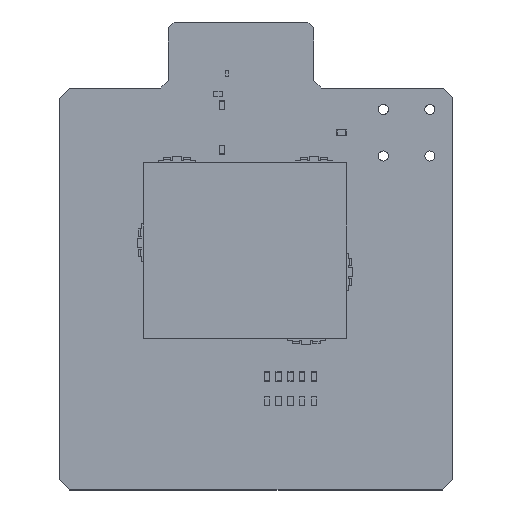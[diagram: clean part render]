
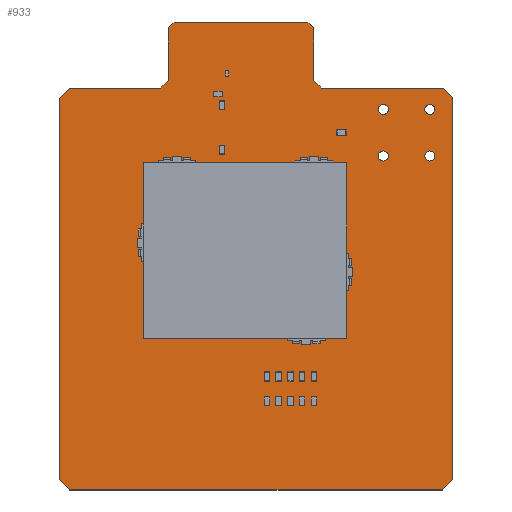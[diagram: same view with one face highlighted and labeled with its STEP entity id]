
A CAD part, top view. The second image highlights one B-rep face of the part: STEP entity #933.
In plain terms, the highlighted planar face has unit normal (0, 0, 1).
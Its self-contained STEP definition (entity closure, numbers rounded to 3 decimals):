
#276 = VERTEX_POINT('',#277);
#277 = CARTESIAN_POINT('',(0.,1.139,1.632));
#283 = EDGE_CURVE('',#276,#284,#286,.T.);
#284 = VERTEX_POINT('',#285);
#285 = CARTESIAN_POINT('',(0.,42.769,1.632));
#286 = LINE('',#287,#288);
#287 = CARTESIAN_POINT('',(0.,1.139,1.632));
#288 = VECTOR('',#289,1.);
#289 = DIRECTION('',(0.,1.,0.));
#314 = EDGE_CURVE('',#284,#315,#317,.T.);
#315 = VERTEX_POINT('',#316);
#316 = CARTESIAN_POINT('',(1.122,43.891,1.632));
#317 = LINE('',#318,#319);
#318 = CARTESIAN_POINT('',(0.,42.769,1.632));
#319 = VECTOR('',#320,1.);
#320 = DIRECTION('',(0.707,0.707,0.));
#345 = EDGE_CURVE('',#315,#346,#348,.T.);
#346 = VERTEX_POINT('',#347);
#347 = CARTESIAN_POINT('',(11.106,43.893,1.632));
#348 = LINE('',#349,#350);
#349 = CARTESIAN_POINT('',(1.122,43.891,1.632));
#350 = VECTOR('',#351,1.);
#351 = DIRECTION('',(1.,0.,0.));
#376 = EDGE_CURVE('',#346,#377,#379,.T.);
#377 = VERTEX_POINT('',#378);
#378 = CARTESIAN_POINT('',(11.927,44.713,1.632));
#379 = LINE('',#380,#381);
#380 = CARTESIAN_POINT('',(11.106,43.893,1.632));
#381 = VECTOR('',#382,1.);
#382 = DIRECTION('',(0.708,0.707,0.));
#407 = EDGE_CURVE('',#377,#408,#410,.T.);
#408 = VERTEX_POINT('',#409);
#409 = CARTESIAN_POINT('',(11.927,50.471,1.632));
#410 = LINE('',#411,#412);
#411 = CARTESIAN_POINT('',(11.927,44.713,1.632));
#412 = VECTOR('',#413,1.);
#413 = DIRECTION('',(0.,1.,0.));
#438 = EDGE_CURVE('',#408,#439,#441,.T.);
#439 = VERTEX_POINT('',#440);
#440 = CARTESIAN_POINT('',(12.562,51.106,1.632));
#441 = LINE('',#442,#443);
#442 = CARTESIAN_POINT('',(11.927,50.471,1.632));
#443 = VECTOR('',#444,1.);
#444 = DIRECTION('',(0.707,0.707,0.));
#469 = EDGE_CURVE('',#439,#470,#472,.T.);
#470 = VERTEX_POINT('',#471);
#471 = CARTESIAN_POINT('',(27.167,51.106,1.632));
#472 = LINE('',#473,#474);
#473 = CARTESIAN_POINT('',(12.562,51.106,1.632));
#474 = VECTOR('',#475,1.);
#475 = DIRECTION('',(1.,0.,0.));
#500 = EDGE_CURVE('',#470,#501,#503,.T.);
#501 = VERTEX_POINT('',#502);
#502 = CARTESIAN_POINT('',(27.802,50.471,1.632));
#503 = LINE('',#504,#505);
#504 = CARTESIAN_POINT('',(27.167,51.106,1.632));
#505 = VECTOR('',#506,1.);
#506 = DIRECTION('',(0.707,-0.707,0.));
#531 = EDGE_CURVE('',#501,#532,#534,.T.);
#532 = VERTEX_POINT('',#533);
#533 = CARTESIAN_POINT('',(27.802,44.711,1.632));
#534 = LINE('',#535,#536);
#535 = CARTESIAN_POINT('',(27.802,50.471,1.632));
#536 = VECTOR('',#537,1.);
#537 = DIRECTION('',(0.,-1.,0.));
#562 = EDGE_CURVE('',#532,#563,#565,.T.);
#563 = VERTEX_POINT('',#564);
#564 = CARTESIAN_POINT('',(28.622,43.891,1.632));
#565 = LINE('',#566,#567);
#566 = CARTESIAN_POINT('',(27.802,44.711,1.632));
#567 = VECTOR('',#568,1.);
#568 = DIRECTION('',(0.707,-0.707,0.));
#593 = EDGE_CURVE('',#563,#594,#596,.T.);
#594 = VERTEX_POINT('',#595);
#595 = CARTESIAN_POINT('',(41.987,43.886,1.632));
#596 = LINE('',#597,#598);
#597 = CARTESIAN_POINT('',(28.622,43.891,1.632));
#598 = VECTOR('',#599,1.);
#599 = DIRECTION('',(1.,0.,0.));
#624 = EDGE_CURVE('',#594,#625,#627,.T.);
#625 = VERTEX_POINT('',#626);
#626 = CARTESIAN_POINT('',(43.,42.873,1.632));
#627 = LINE('',#628,#629);
#628 = CARTESIAN_POINT('',(41.987,43.886,1.632));
#629 = VECTOR('',#630,1.);
#630 = DIRECTION('',(0.707,-0.707,0.));
#655 = EDGE_CURVE('',#625,#656,#658,.T.);
#656 = VERTEX_POINT('',#657);
#657 = CARTESIAN_POINT('',(43.001,1.141,1.632));
#658 = LINE('',#659,#660);
#659 = CARTESIAN_POINT('',(43.,42.873,1.632));
#660 = VECTOR('',#661,1.);
#661 = DIRECTION('',(0.,-1.,0.));
#686 = EDGE_CURVE('',#656,#687,#689,.T.);
#687 = VERTEX_POINT('',#688);
#688 = CARTESIAN_POINT('',(41.852,0.,1.632));
#689 = LINE('',#690,#691);
#690 = CARTESIAN_POINT('',(43.001,1.141,1.632));
#691 = VECTOR('',#692,1.);
#692 = DIRECTION('',(-0.71,-0.705,0.));
#717 = EDGE_CURVE('',#687,#718,#720,.T.);
#718 = VERTEX_POINT('',#719);
#719 = CARTESIAN_POINT('',(1.139,0.,1.632));
#720 = LINE('',#721,#722);
#721 = CARTESIAN_POINT('',(41.852,0.,1.632));
#722 = VECTOR('',#723,1.);
#723 = DIRECTION('',(-1.,0.,0.));
#748 = EDGE_CURVE('',#718,#276,#749,.T.);
#749 = LINE('',#750,#751);
#750 = CARTESIAN_POINT('',(1.139,0.,1.632));
#751 = VECTOR('',#752,1.);
#752 = DIRECTION('',(-0.707,0.707,0.));
#772 = VERTEX_POINT('',#773);
#773 = CARTESIAN_POINT('',(35.958,36.474,1.632));
#779 = EDGE_CURVE('',#772,#772,#780,.T.);
#780 = CIRCLE('',#781,0.55);
#781 = AXIS2_PLACEMENT_3D('',#782,#783,#784);
#782 = CARTESIAN_POINT('',(35.408,36.474,1.632));
#783 = DIRECTION('',(0.,0.,1.));
#784 = DIRECTION('',(1.,0.,-0.));
#805 = VERTEX_POINT('',#806);
#806 = CARTESIAN_POINT('',(35.958,41.554,1.632));
#812 = EDGE_CURVE('',#805,#805,#813,.T.);
#813 = CIRCLE('',#814,0.55);
#814 = AXIS2_PLACEMENT_3D('',#815,#816,#817);
#815 = CARTESIAN_POINT('',(35.408,41.554,1.632));
#816 = DIRECTION('',(0.,0.,1.));
#817 = DIRECTION('',(1.,0.,-0.));
#838 = VERTEX_POINT('',#839);
#839 = CARTESIAN_POINT('',(41.038,36.474,1.632));
#845 = EDGE_CURVE('',#838,#838,#846,.T.);
#846 = CIRCLE('',#847,0.55);
#847 = AXIS2_PLACEMENT_3D('',#848,#849,#850);
#848 = CARTESIAN_POINT('',(40.488,36.474,1.632));
#849 = DIRECTION('',(0.,0.,1.));
#850 = DIRECTION('',(1.,0.,-0.));
#871 = VERTEX_POINT('',#872);
#872 = CARTESIAN_POINT('',(41.038,41.554,1.632));
#878 = EDGE_CURVE('',#871,#871,#879,.T.);
#879 = CIRCLE('',#880,0.55);
#880 = AXIS2_PLACEMENT_3D('',#881,#882,#883);
#881 = CARTESIAN_POINT('',(40.488,41.554,1.632));
#882 = DIRECTION('',(0.,0.,1.));
#883 = DIRECTION('',(1.,0.,-0.));
#933 = ADVANCED_FACE('',(#934,#952,#955,#958,#961),#964,.F.);
#934 = FACE_BOUND('',#935,.F.);
#935 = EDGE_LOOP('',(#936,#937,#938,#939,#940,#941,#942,#943,#944,#945,
    #946,#947,#948,#949,#950,#951));
#936 = ORIENTED_EDGE('',*,*,#283,.T.);
#937 = ORIENTED_EDGE('',*,*,#314,.T.);
#938 = ORIENTED_EDGE('',*,*,#345,.T.);
#939 = ORIENTED_EDGE('',*,*,#376,.T.);
#940 = ORIENTED_EDGE('',*,*,#407,.T.);
#941 = ORIENTED_EDGE('',*,*,#438,.T.);
#942 = ORIENTED_EDGE('',*,*,#469,.T.);
#943 = ORIENTED_EDGE('',*,*,#500,.T.);
#944 = ORIENTED_EDGE('',*,*,#531,.T.);
#945 = ORIENTED_EDGE('',*,*,#562,.T.);
#946 = ORIENTED_EDGE('',*,*,#593,.T.);
#947 = ORIENTED_EDGE('',*,*,#624,.T.);
#948 = ORIENTED_EDGE('',*,*,#655,.T.);
#949 = ORIENTED_EDGE('',*,*,#686,.T.);
#950 = ORIENTED_EDGE('',*,*,#717,.T.);
#951 = ORIENTED_EDGE('',*,*,#748,.T.);
#952 = FACE_BOUND('',#953,.F.);
#953 = EDGE_LOOP('',(#954));
#954 = ORIENTED_EDGE('',*,*,#779,.T.);
#955 = FACE_BOUND('',#956,.F.);
#956 = EDGE_LOOP('',(#957));
#957 = ORIENTED_EDGE('',*,*,#812,.T.);
#958 = FACE_BOUND('',#959,.F.);
#959 = EDGE_LOOP('',(#960));
#960 = ORIENTED_EDGE('',*,*,#845,.T.);
#961 = FACE_BOUND('',#962,.F.);
#962 = EDGE_LOOP('',(#963));
#963 = ORIENTED_EDGE('',*,*,#878,.T.);
#964 = PLANE('',#965);
#965 = AXIS2_PLACEMENT_3D('',#966,#967,#968);
#966 = CARTESIAN_POINT('',(21.394,24.351,1.632));
#967 = DIRECTION('',(-0.,-0.,-1.));
#968 = DIRECTION('',(-1.,0.,0.));
